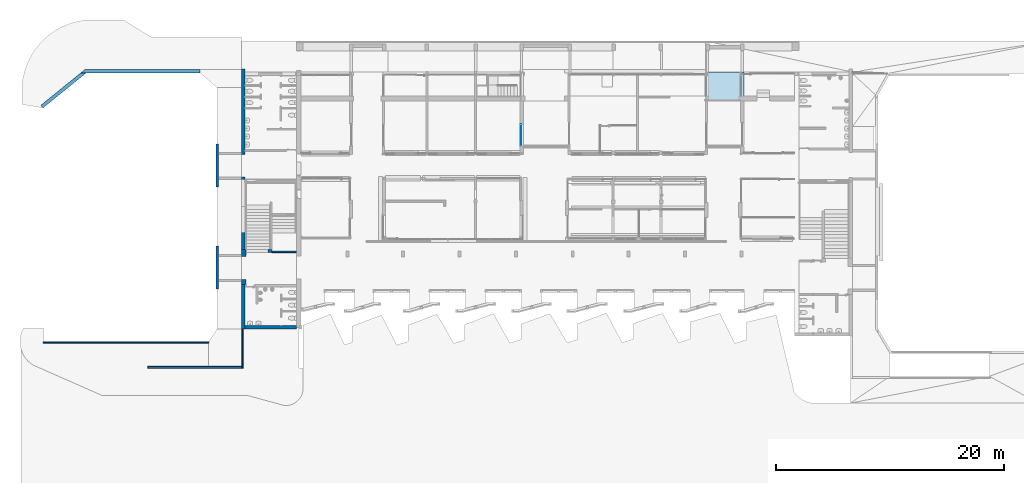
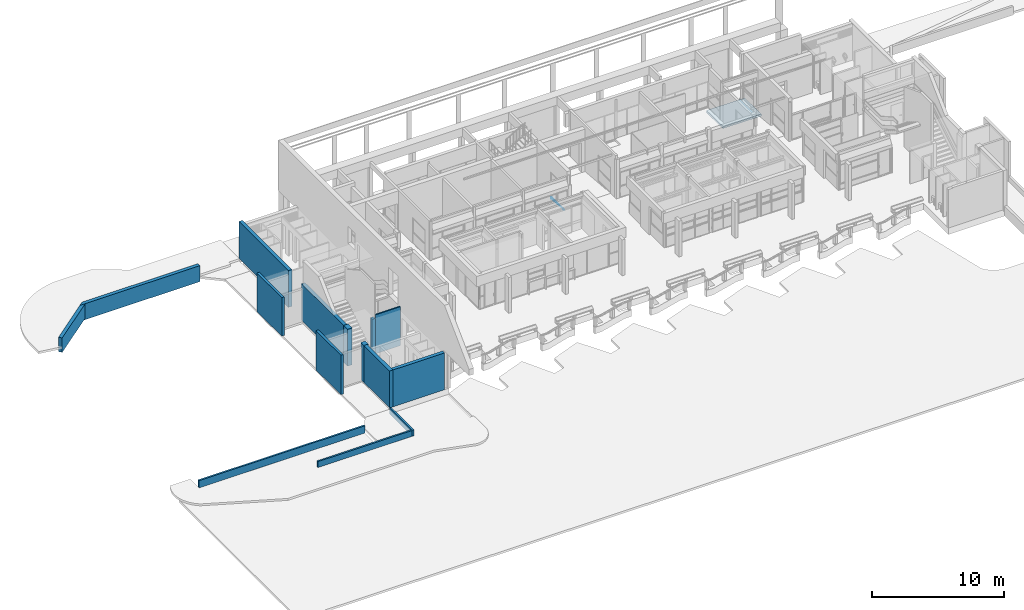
# One storey, part 67 of 117: 15 walls, 1 plate, 1 slab, 1 element without a shape of its own.
"""IFC4 building model written with IfcOpenShell, lengths in metres."""

from ifc_helpers import new_model, entity, si_unit, converted_unit, derived_unit, direction, frame, origin, place, context, subcontext, project, spatial, indexed_curve, outline, extrude, polygons, source, transform, mapped, material, type_object, type_shapes, element, aggregate, save


model = new_model("IFC4")

# Units and contexts
model_context = context("Model", 3, precision=1e-05, world=origin(), true_north=direction((6.123031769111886e-17, 1.0)))
body_context = subcontext(model_context, "Body", "Model", "MODEL_VIEW")
ifc_project = project(units=[si_unit("LENGTHUNIT", "METRE"), si_unit("AREAUNIT", "SQUARE_METRE"), si_unit("VOLUMEUNIT", "CUBIC_METRE"), converted_unit("PLANEANGLEUNIT", "DEGREE", entity("IfcRatioMeasure", 0.017453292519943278), si_unit("PLANEANGLEUNIT", "RADIAN"), dimensions=[0, 0, 0, 0, 0, 0, 0]), si_unit("MASSUNIT", "GRAM", prefix="KILO"), derived_unit("MASSDENSITYUNIT", [(si_unit("MASSUNIT", "GRAM", prefix="KILO"), 1), (si_unit("LENGTHUNIT", "METRE"), -3)]), derived_unit("MOMENTOFINERTIAUNIT", [(si_unit("LENGTHUNIT", "METRE"), 4)]), si_unit("TIMEUNIT", "SECOND"), si_unit("FREQUENCYUNIT", "HERTZ"), si_unit("THERMODYNAMICTEMPERATUREUNIT", "DEGREE_CELSIUS"), derived_unit("THERMALTRANSMITTANCEUNIT", [(si_unit("MASSUNIT", "GRAM", prefix="KILO"), 1), (si_unit("THERMODYNAMICTEMPERATUREUNIT", "KELVIN"), -1), (si_unit("TIMEUNIT", "SECOND"), -3)]), derived_unit("VOLUMETRICFLOWRATEUNIT", [(si_unit("LENGTHUNIT", "METRE"), 3), (si_unit("TIMEUNIT", "SECOND"), -1)]), derived_unit("MASSFLOWRATEUNIT", [(si_unit("MASSUNIT", "GRAM", prefix="KILO"), 1), (si_unit("TIMEUNIT", "SECOND"), -1)]), derived_unit("ROTATIONALFREQUENCYUNIT", [(si_unit("TIMEUNIT", "SECOND"), -1)]), si_unit("ELECTRICCURRENTUNIT", "AMPERE"), si_unit("ELECTRICVOLTAGEUNIT", "VOLT"), si_unit("POWERUNIT", "WATT"), si_unit("FORCEUNIT", "NEWTON", prefix="KILO"), si_unit("ILLUMINANCEUNIT", "LUX"), si_unit("LUMINOUSFLUXUNIT", "LUMEN"), si_unit("LUMINOUSINTENSITYUNIT", "CANDELA"), derived_unit("USERDEFINED", [(si_unit("MASSUNIT", "GRAM", prefix="KILO"), -1), (si_unit("LENGTHUNIT", "METRE"), -2), (si_unit("TIMEUNIT", "SECOND"), 3), (si_unit("LUMINOUSFLUXUNIT", "LUMEN"), 1)]), derived_unit("SOUNDPOWERUNIT", [(si_unit("MASSUNIT", "GRAM", prefix="KILO"), 1), (si_unit("LENGTHUNIT", "METRE"), 2), (si_unit("TIMEUNIT", "SECOND"), -3)]), derived_unit("SOUNDPRESSUREUNIT", [(si_unit("MASSUNIT", "GRAM", prefix="KILO"), 1), (si_unit("LENGTHUNIT", "METRE"), -1), (si_unit("TIMEUNIT", "SECOND"), -2)]), derived_unit("LINEARVELOCITYUNIT", [(si_unit("LENGTHUNIT", "METRE"), 1), (si_unit("TIMEUNIT", "SECOND"), -1)]), si_unit("PRESSUREUNIT", "PASCAL"), derived_unit("USERDEFINED", [(si_unit("LENGTHUNIT", "METRE"), -2), (si_unit("MASSUNIT", "GRAM", prefix="KILO"), 1), (si_unit("TIMEUNIT", "SECOND"), -2)]), derived_unit("LINEARFORCEUNIT", [(si_unit("MASSUNIT", "GRAM", prefix="KILO"), 1), (si_unit("LENGTHUNIT", "METRE"), 1), (si_unit("TIMEUNIT", "SECOND"), -2), (si_unit("LENGTHUNIT", "METRE"), -1)]), derived_unit("PLANARFORCEUNIT", [(si_unit("MASSUNIT", "GRAM", prefix="KILO"), 1), (si_unit("LENGTHUNIT", "METRE"), 1), (si_unit("TIMEUNIT", "SECOND"), -2), (si_unit("LENGTHUNIT", "METRE"), -2)])], contexts=[model_context])

# Site, building, storey
site_placement = place(None, origin())
site = spatial("IfcSite", under=ifc_project, at=site_placement, Name="Superficie", CompositionType="ELEMENT")
building_placement = place(site_placement, origin())
building = spatial("IfcBuilding", under=site, at=building_placement, CompositionType="ELEMENT")
storey_placement = place(building_placement, origin())
storey = spatial("IfcBuildingStorey", under=building, at=storey_placement, Name="Nivel 0", CompositionType="ELEMENT", Elevation=0.0)

# Curtain wall, plate
curtain_wall_type = type_object("IfcCurtainWallType", Name="Muro cortina:Muro cortina - simple", PredefinedType="NOTDEFINED")
curtain_wall_placement = place(storey_placement, origin())
curtain_wall = element("IfcCurtainWall", 1, at=curtain_wall_placement, inside=storey, type_object=curtain_wall_type, Name="Muro cortina:Muro cortina - simple", ObjectType="Muro cortina:Muro cortina - simple", PredefinedType="NOTDEFINED")
ifc_material_1 = material(Name="Cristal", Category="Vidrio")
plate_type = type_object("IfcPlateType", Name="Panel de sistema:Acristalado", PredefinedType="CURTAIN_PANEL", material=ifc_material_1)
shared_shape = source(origin(), body_context, "Body", "Tessellation", [
    polygons([(-0.9386169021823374, -0.010000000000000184, 0.14248579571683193), (-0.9386169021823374, -0.010000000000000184, 0.0), (0.8377063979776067, -0.010000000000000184, 0.14748579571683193), (0.9386169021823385, -0.010000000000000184, 0.1474857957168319), (0.9386169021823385, -0.010000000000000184, 0.14248579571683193), (-0.9386169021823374, 0.009999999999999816, 0.14248579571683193), (0.9386169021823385, 0.009999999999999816, 0.14248579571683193), (0.9386169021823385, 0.009999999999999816, 0.1474857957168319), (0.8377063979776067, 0.009999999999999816, 0.14748579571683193), (-0.9386169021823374, 0.009999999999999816, 0.0)], [[[1, 2, 3, 4, 5]], [[6, 7, 8, 9, 10]], [[2, 1, 6, 10]], [[3, 2, 10, 9]], [[4, 3, 9, 8]], [[5, 4, 8, 7]], [[1, 5, 7, 6]]], closed=True),
])
type_shapes(plate_type, [shared_shape])
plate_placement = place(curtain_wall_placement, frame((-3.3632009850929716, 7.354446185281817, -0.1474857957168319), z_axis=(0.0, 0.0, 1.0), x_axis=(0.0, -1.0, 0.0)))
plate = element("IfcPlate", 2, at=plate_placement, type_object=plate_type, material=ifc_material_1, Name="Panel de sistema:Acristalado", ObjectType="Panel de sistema:Acristalado", PredefinedType="CURTAIN_PANEL", context=body_context, shape_type="MappedRepresentation", body=[
    mapped(shared_shape, transform((0.0, 0.0, 0.0), scale=1.0)),
])
aggregate(curtain_wall, [plate])

# Slab
ifc_material_2 = material(Name="Suelos por defecto", Category="Genérico")
slab_type = type_object("IfcSlabType", Name="Suelo:Por defecto - 20 cm 2", PredefinedType="FLOOR", material=ifc_material_2)
slab_placement = place(storey_placement, origin())
element("IfcSlab", 3, at=slab_placement, inside=storey, type_object=slab_type, material=ifc_material_2, Name="Suelo:Por defecto - 20 cm 2", ObjectType="Suelo:Por defecto - 20 cm 2", PredefinedType="FLOOR", context=body_context, shape_type="Tessellation", body=[
    polygons([(16.146799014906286, 12.884548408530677, -0.6509999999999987), (16.146799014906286, 12.884548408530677, -0.45099999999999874), (16.146799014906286, 10.370829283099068, -0.40100000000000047), (16.146799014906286, 10.370829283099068, -0.6010000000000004), (12.791799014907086, 10.370829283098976, -0.3712000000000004), (12.791799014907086, 10.370829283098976, -0.5712000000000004), (12.791799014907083, 12.884548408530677, -0.4212000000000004), (12.791799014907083, 12.884548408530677, -0.6212000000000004)], [[[1, 2, 3, 4]], [[4, 3, 5, 6]], [[6, 5, 7, 8]], [[8, 7, 2, 1]], [[7, 5, 3, 2]], [[8, 1, 4, 6]]], closed=True),
])

# Walls
ifc_material_3 = material(Name="Muro por defecto", Category="Varios")
wall_type_1 = type_object("IfcWallType", Name="Muro básico:Por defecto - 40 cm 2", PredefinedType="STANDARD")
wall_1_placement = place(storey_placement, frame((-27.643200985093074, -5.724170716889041, 0.0), z_axis=(0.0, 0.0, 1.0), x_axis=(0.0, 1.0, 0.0)))
element("IfcWall", 4, at=wall_1_placement, inside=storey, type_object=wall_type_1, material=ifc_material_3, Name="Muro básico:Por defecto - 40 cm 2", ObjectType="Muro básico:Por defecto - 40 cm 2", PredefinedType="NOTDEFINED", context=body_context, shape_type="SweptSolid", body=[
    extrude(outline(indexed_curve([(0.45950313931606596, 0.20000000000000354), (-3.09390608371e-16, 0.20000000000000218), (3.09390608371e-16, -0.20000000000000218), (0.4595031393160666, -0.20000000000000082), (0.45950313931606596, 0.20000000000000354)], self_intersect=False)), origin(), (0.0, 0.0, 1.0), 3.4),
])
wall_2_placement = place(storey_placement, frame((-27.64320098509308, -2.674170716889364, 0.0), z_axis=(0.0, 0.0, 1.0), x_axis=(0.0, -1.0, 0.0)))
element("IfcWall", 5, at=wall_2_placement, inside=storey, type_object=wall_type_1, material=ifc_material_3, Name="Muro básico:Por defecto - 40 cm 2", ObjectType="Muro básico:Por defecto - 40 cm 2", PredefinedType="NOTDEFINED", context=body_context, shape_type="SweptSolid", body=[
    extrude(outline(indexed_curve([(0.5954968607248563, 0.20000000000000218), (0.0, 0.20000000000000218), (0.0, -0.20000000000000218), (0.5954968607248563, -0.20000000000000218), (0.5954968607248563, 0.20000000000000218)], self_intersect=False)), origin(), (0.0, 0.0, 1.0), 3.4),
])
wall_type_2 = type_object("IfcWallType", Name="Muro básico:Por defecto - 25 cm 2", PredefinedType="STANDARD")
wall_3_placement = place(storey_placement, frame((-25.513200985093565, -2.7991707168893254, 0.0)))
element("IfcWall", 6, at=wall_3_placement, inside=storey, type_object=wall_type_2, material=ifc_material_3, Name="Muro básico:Por defecto - 25 cm 2", ObjectType="Muro básico:Por defecto - 25 cm 2", PredefinedType="NOTDEFINED", context=body_context, shape_type="SweptSolid", body=[
    extrude(outline(indexed_curve([(0.32000000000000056, 0.12499999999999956), (-3.5148730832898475e-16, 0.12499999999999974), (3.5148730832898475e-16, -0.12499999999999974), (0.32000000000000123, -0.12499999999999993), (0.32000000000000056, 0.12499999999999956)], self_intersect=False)), origin(), (0.0, 0.0, 1.0), 3.292614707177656),
])
wall_type_3 = type_object("IfcWallType", Name="Muro básico:Por defecto - 30 cm", PredefinedType="STANDARD")
wall_4_placement = place(storey_placement, frame((-27.69320098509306, 13.155458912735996, 0.0), z_axis=(0.0, 0.0, 1.0), x_axis=(0.0, -1.0, 0.0)))
element("IfcWall", 7, at=wall_4_placement, inside=storey, type_object=wall_type_3, material=ifc_material_3, Name="Muro básico:Por defecto - 30 cm", ObjectType="Muro básico:Por defecto - 30 cm", PredefinedType="NOTDEFINED", context=body_context, shape_type="SweptSolid", body=[
    extrude(outline(indexed_curve([(7.484629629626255, 0.15000000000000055), (-1.736145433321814e-16, 0.15000000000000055), (1.736145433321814e-16, -0.15000000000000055), (7.484629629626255, -0.15000000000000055), (7.484629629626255, 0.15000000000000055)], self_intersect=False)), origin(), (0.0, 0.0, 1.0), 3.4),
])
wall_5_placement = place(storey_placement, frame((-27.54320098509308, -9.47417071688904, 0.0)))
element("IfcWall", 8, at=wall_5_placement, inside=storey, type_object=wall_type_3, material=ifc_material_3, Name="Muro básico:Por defecto - 30 cm", ObjectType="Muro básico:Por defecto - 30 cm", PredefinedType="NOTDEFINED", context=body_context, shape_type="SweptSolid", body=[
    extrude(outline(indexed_curve([(4.499999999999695, 0.14999999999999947), (-4.692424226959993e-16, 0.14999999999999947), (4.692424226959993e-16, -0.14999999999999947), (4.499999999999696, -0.14999999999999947), (4.499999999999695, 0.14999999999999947)], self_intersect=False)), origin(), (0.0, 0.0, 1.0), 3.4),
])
wall_6_placement = place(storey_placement, frame((-27.693200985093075, -5.724170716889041, 0.0), z_axis=(0.0, 0.0, 1.0), x_axis=(0.0, -1.0, 0.0)))
element("IfcWall", 9, at=wall_6_placement, inside=storey, type_object=wall_type_3, material=ifc_material_3, Name="Muro básico:Por defecto - 30 cm", ObjectType="Muro básico:Por defecto - 30 cm", PredefinedType="NOTDEFINED", context=body_context, shape_type="SweptSolid", body=[
    extrude(outline(indexed_curve([(3.8999999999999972, 0.15000000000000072), (-1.7325874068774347e-16, 0.15000000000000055), (1.7325874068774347e-16, -0.15000000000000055), (3.8999999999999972, -0.15000000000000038), (3.8999999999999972, 0.15000000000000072)], self_intersect=False)), origin(), (0.0, 0.0, 1.0), 3.4),
])
wall_7_placement = place(storey_placement, frame((-31.463200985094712, 12.945829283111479, -0.6758065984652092), z_axis=(0.0, 0.0, 1.0), x_axis=(-1.0, 0.0, 0.0)))
element("IfcWall", 10, at=wall_7_placement, inside=storey, type_object=wall_type_3, material=ifc_material_3, Name="Muro básico:Por defecto - 30 cm", ObjectType="Muro básico:Por defecto - 30 cm", PredefinedType="NOTDEFINED", context=body_context, shape_type="SweptSolid", body=[
    extrude(outline(indexed_curve([(10.106235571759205, -0.15000000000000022), (10.476704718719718, 0.14999999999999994), (-4.872902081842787e-16, 0.15000000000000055), (4.872902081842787e-16, -0.15000000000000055), (10.106235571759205, -0.15000000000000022)], self_intersect=False)), origin(), (0.0, 0.0, 1.0), 1.4758065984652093),
])
wall_8_placement = place(storey_placement, frame((-41.557599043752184, 12.912401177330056, -0.536947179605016), z_axis=(0.0, 0.0, 1.0), x_axis=(-0.7771459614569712, -0.6293203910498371, 0.0)))
element("IfcWall", 11, at=wall_8_placement, inside=storey, type_object=wall_type_3, material=ifc_material_3, Name="Muro básico:Por defecto - 30 cm", ObjectType="Muro básico:Por defecto - 30 cm", PredefinedType="NOTDEFINED", context=body_context, shape_type="SweptSolid", body=[
    extrude(outline(indexed_curve([(4.847679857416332, -0.15000000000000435), (4.847679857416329, 0.14999999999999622), (1.463562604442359e-15, 0.14999999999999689), (0.3704691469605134, -0.15000000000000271), (4.847679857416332, -0.15000000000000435)], self_intersect=False)), origin(), (0.0, 0.0, 1.0), 1.336947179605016),
])
wall_9_placement = place(storey_placement, frame((-27.693200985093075, 3.675829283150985, 0.0), z_axis=(0.0, 0.0, 1.0), x_axis=(0.0, -1.0, 0.0)))
element("IfcWall", 12, at=wall_9_placement, inside=storey, type_object=wall_type_3, material=ifc_material_3, Name="Muro básico:Por defecto - 30 cm", ObjectType="Muro básico:Por defecto - 30 cm", PredefinedType="NOTDEFINED", context=body_context, shape_type="SweptSolid", body=[
    extrude(outline(indexed_curve([(6.35000000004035, 0.15000000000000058), (-1.0313020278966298e-16, 0.15000000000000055), (1.0313020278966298e-16, -0.15000000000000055), (6.35000000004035, -0.15000000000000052), (6.35000000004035, 0.15000000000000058)], self_intersect=False)), origin(), (0.0, 0.0, 1.0), 3.4),
])
wall_type_4 = type_object("IfcWallType", Name="Muro básico:Por defecto - 15 cm 2", PredefinedType="STANDARD")
wall_10_placement = place(storey_placement, frame((-27.768200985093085, -9.624170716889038, -0.55), z_axis=(0.0, 0.0, 1.0), x_axis=(0.0, -1.0, 0.0)))
element("IfcWall", 13, at=wall_10_placement, inside=storey, type_object=wall_type_4, material=ifc_material_3, Name="Muro básico:Por defecto - 15 cm 2", ObjectType="Muro básico:Por defecto - 15 cm 2", PredefinedType="NOTDEFINED", context=body_context, shape_type="SweptSolid", body=[
    extrude(outline(indexed_curve([(3.419999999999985, 0.07500000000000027), (-9.498834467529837e-17, 0.07500000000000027), (9.498834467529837e-17, -0.07500000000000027), (3.419999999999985, -0.07500000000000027), (3.419999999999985, 0.07500000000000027)], self_intersect=False)), origin(), (0.0, 0.0, 1.0), 0.555),
])
wall_11_placement = place(storey_placement, frame((-27.843200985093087, -12.969170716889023, -0.55), z_axis=(0.0, 0.0, 1.0), x_axis=(-1.0, 0.0, 0.0)))
element("IfcWall", 14, at=wall_11_placement, inside=storey, type_object=wall_type_4, material=ifc_material_3, Name="Muro básico:Por defecto - 15 cm 2", ObjectType="Muro básico:Por defecto - 15 cm 2", PredefinedType="NOTDEFINED", context=body_context, shape_type="SweptSolid", body=[
    extrude(outline(indexed_curve([(8.230821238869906, 0.07500000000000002), (-2.3453287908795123e-16, 0.07500000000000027), (2.3453287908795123e-16, -0.07500000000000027), (8.230821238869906, -0.07500000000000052), (8.230821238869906, 0.07500000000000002)], self_intersect=False)), origin(), (0.0, 0.0, 1.0), 0.55),
])
wall_12_placement = place(storey_placement, frame((-30.72516035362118, -10.799170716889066, -0.55), z_axis=(0.0, 0.0, 1.0), x_axis=(-1.0, 0.0, 0.0)))
element("IfcWall", 15, at=wall_12_placement, inside=storey, type_object=wall_type_4, material=ifc_material_3, Name="Muro básico:Por defecto - 15 cm 2", ObjectType="Muro básico:Por defecto - 15 cm 2", PredefinedType="NOTDEFINED", context=body_context, shape_type="SweptSolid", body=[
    extrude(outline(indexed_curve([(14.468861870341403, 0.07500000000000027), (-2.4697599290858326e-16, 0.07500000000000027), (2.4697599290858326e-16, -0.07500000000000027), (14.468861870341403, -0.07500000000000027), (14.468861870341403, 0.07500000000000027)], self_intersect=False)), origin(), (0.0, 0.0, 1.0), 0.6700000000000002),
])
wall_type_5 = type_object("IfcWallType", Name="Muro básico:Por defecto - 12 cm 2", PredefinedType="STANDARD")
wall_13_placement = place(storey_placement, frame((-23.043200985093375, -2.8641707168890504, 0.0), z_axis=(0.0, 0.0, 1.0), x_axis=(-1.0, 0.0, 0.0)))
element("IfcWall", 16, at=wall_13_placement, inside=storey, type_object=wall_type_5, material=ifc_material_3, Name="Muro básico:Por defecto - 12 cm 2", ObjectType="Muro básico:Por defecto - 12 cm 2", PredefinedType="NOTDEFINED", context=body_context, shape_type="SweptSolid", body=[
    extrude(outline(indexed_curve([(2.1500000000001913, 0.059999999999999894), (0.0, 0.059999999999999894), (0.0, -0.059999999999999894), (2.1500000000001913, -0.059999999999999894), (2.1500000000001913, 0.059999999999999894)], self_intersect=False)), origin(), (0.0, 0.0, 1.0), 3.5999999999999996),
])
wall_type_6 = type_object("IfcWallType", Name="Muro básico:Por defecto - 22 cm 2", PredefinedType="STANDARD")
wall_14_placement = place(storey_placement, frame((-29.953200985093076, 6.600829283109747, -0.15451984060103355), z_axis=(0.0, 0.0, 1.0), x_axis=(0.0, -1.0, 0.0)))
element("IfcWall", 17, at=wall_14_placement, inside=storey, type_object=wall_type_6, material=ifc_material_3, Name="Muro básico:Por defecto - 22 cm 2", ObjectType="Muro básico:Por defecto - 22 cm 2", PredefinedType="NOTDEFINED", context=body_context, shape_type="SweptSolid", body=[
    extrude(outline(indexed_curve([(3.7699999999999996, 0.11000000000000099), (0.0, 0.11000000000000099), (0.0, -0.11000000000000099), (3.7699999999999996, -0.11000000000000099), (3.7699999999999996, 0.11000000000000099)], self_intersect=False)), origin(), (0.0, 0.0, 1.0), 3.554519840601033),
])
wall_15_placement = place(storey_placement, frame((-29.95320098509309, -2.339667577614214, -0.1392296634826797), z_axis=(0.0, 0.0, 1.0), x_axis=(0.0, -1.0, 0.0)))
element("IfcWall", 18, at=wall_15_placement, inside=storey, type_object=wall_type_6, material=ifc_material_3, Name="Muro básico:Por defecto - 22 cm 2", ObjectType="Muro básico:Por defecto - 22 cm 2", PredefinedType="NOTDEFINED", context=body_context, shape_type="SweptSolid", body=[
    extrude(outline(indexed_curve([(3.7699999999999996, 0.11000000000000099), (0.0, 0.11000000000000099), (0.0, -0.11000000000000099), (3.7699999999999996, -0.11000000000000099), (3.7699999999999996, 0.11000000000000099)], self_intersect=False)), origin(), (0.0, 0.0, 1.0), 3.6392296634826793),
])

save(model, "model.ifc")
